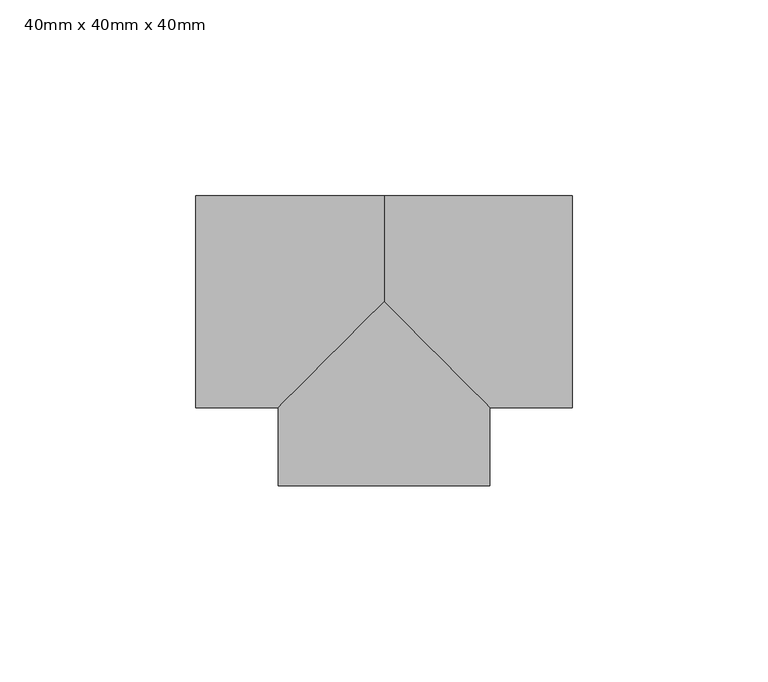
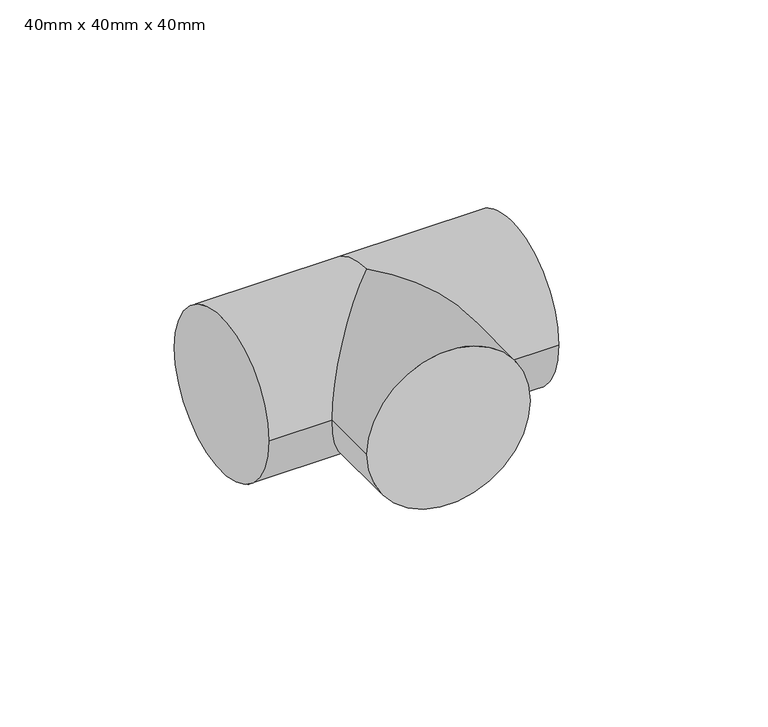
"""IFC4 building model written with IfcOpenShell, lengths in millimetres: pipe fitting geometry, PipeFitting_HTA_CPVC_Tees90° : 40mm x 40mm x 40mm."""

from ifc_helpers import new_model, si_unit, frame, origin, place, context, project, spatial, circle_curve, ellipse_curve, source, transform, mapped, element, save
from ifc_brep_helpers import plane_surface, cylinder_surface, advanced_brep


def pipe_fitting_40mm_x_40mm_x_40mm_a710034d(model_context):
    return source(origin(), model_context, "Body", "AdvancedBrep", [
        advanced_brep(
        [(-27.0, -47.0, 0.0), (27.0, -47.0, 0.0), (27.0, -27.0, 0.0), (0.0, 0.0, 27.0), (-27.0, -27.0, 0.0), (0.0, 0.0, -27.0), (-48.0, -27.0, 0.0), (-48.0, 27.0, 0.0), (0.0, 27.0, 0.0), (48.0, -27.0, 0.0), (48.0, 27.0, 0.0)],
        [
            (0, 1, circle_curve(frame((0.0, -47.0, 0.0), z_axis=(0.0, -1.0, 0.0), x_axis=(1.0, 0.0, 0.0)), 27.0)),
            (1, 0, circle_curve(frame((0.0, -47.0, 0.0), z_axis=(0.0, -1.0, 0.0), x_axis=(1.0, 0.0, 0.0)), 27.0)),
            (1, 2),
            (2, 3, ellipse_curve(frame((0.0, 0.0, 0.0), z_axis=(-0.7071067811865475, -0.7071067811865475, 0.0), x_axis=(-0.7071067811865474, 0.7071067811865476, 0.0)), 38.1837662, 27.0)),
            (3, 4, ellipse_curve(frame((0.0, 0.0, 0.0), z_axis=(0.7071067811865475, -0.7071067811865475, 0.0), x_axis=(0.7071067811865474, 0.7071067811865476, 0.0)), 38.1837662, 27.0)),
            (4, 0),
            (4, 5, ellipse_curve(frame((0.0, 0.0, 0.0), z_axis=(0.7071067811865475, -0.7071067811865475, 0.0), x_axis=(0.7071067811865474, 0.7071067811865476, 0.0)), 38.1837662, 27.0)),
            (5, 2, ellipse_curve(frame((0.0, 0.0, 0.0), z_axis=(-0.7071067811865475, -0.7071067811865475, 0.0), x_axis=(-0.7071067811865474, 0.7071067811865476, 0.0)), 38.1837662, 27.0)),
            (6, 7, circle_curve(frame((-48.0, 0.0, 0.0), z_axis=(-1.0, 0.0, 0.0), x_axis=(0.0, 1.0, 0.0)), 27.0)),
            (7, 6, circle_curve(frame((-48.0, 0.0, 0.0), z_axis=(-1.0, 0.0, 0.0), x_axis=(0.0, 1.0, 0.0)), 27.0)),
            (6, 4),
            (3, 8, circle_curve(frame((0.0, 0.0, 0.0), z_axis=(-1.0, 0.0, 0.0), x_axis=(0.0, 1.0, 0.0)), 27.0)),
            (8, 7),
            (8, 5, circle_curve(frame((0.0, 0.0, 0.0), z_axis=(-1.0, 0.0, 0.0), x_axis=(0.0, 1.0, 0.0)), 27.0)),
            (9, 10, circle_curve(frame((48.0, 0.0, 0.0), z_axis=(1.0, 0.0, 0.0), x_axis=(0.0, 1.0, 0.0)), 27.0)),
            (10, 9, circle_curve(frame((48.0, 0.0, 0.0), z_axis=(1.0, 0.0, 0.0), x_axis=(0.0, 1.0, 0.0)), 27.0)),
            (10, 8),
            (2, 9),
        ],
        [
            plane_surface(frame((0.0, -47.0, 0.0), z_axis=(0.0, -1.0, 0.0), x_axis=(0.0, 0.0, 1.0))),
            cylinder_surface(frame((0.0, 0.0, 0.0), z_axis=(0.0, 1.0, 0.0), x_axis=(1.0, 0.0, 0.0)), 27.0),
            plane_surface(frame((-48.0, 0.0, 0.0), z_axis=(-1.0, 0.0, 0.0), x_axis=(0.0, 0.0, 1.0))),
            cylinder_surface(frame((-48.0, 0.0, 0.0), z_axis=(-1.0, 0.0, 0.0), x_axis=(0.0, 1.0, 0.0)), 27.0),
            plane_surface(frame((48.0, 0.0, 0.0), z_axis=(1.0, 0.0, 0.0), x_axis=(0.0, 0.0, 1.0))),
            cylinder_surface(frame((0.0, 0.0, 0.0), z_axis=(-1.0, 0.0, 0.0), x_axis=(0.0, 1.0, 0.0)), 27.0),
        ],
        [
            (0, [[1, 2]]),
            (1, [[-2, 3, 4, 5, 6]]),
            (1, [[-1, -6, 7, 8, -3]]),
            (2, [[9, 10]]),
            (3, [[-9, 11, -5, 12, 13]]),
            (3, [[-10, -13, 14, -7, -11]]),
            (4, [[15, 16]]),
            (5, [[-16, 17, -12, -4, 18]]),
            (5, [[-15, -18, -8, -14, -17]]),
        ],
    ),
    ])


if __name__ == "__main__":
    model = new_model("IFC4")
    model_context = context("Model", 3, world=origin())
    ifc_project = project(units=[si_unit("LENGTHUNIT", "METRE", prefix="MILLI")], contexts=[model_context])
    site = spatial("IfcSite", under=ifc_project)
    building = spatial("IfcBuilding", under=site)
    placement = place(None, origin())
    pipe_fitting_40mm_x_40mm_x_40mm_shape = pipe_fitting_40mm_x_40mm_x_40mm_a710034d(model_context)
    element("IfcPipeFitting", 1, ObjectType="PipeFitting_HTA_CPVC_Tees90° : 40mm x 40mm x 40mm", at=placement, inside=building, context=model_context, shape_type="MappedRepresentation", body=[
        mapped(pipe_fitting_40mm_x_40mm_x_40mm_shape, transform((0.0, 0.0, 0.0), x_axis=(1.0, 0.0, 0.0), y_axis=(0.0, 1.0, 0.0), z_axis=(0.0, 0.0, 1.0))),
    ])
    save(model, "model.ifc")
